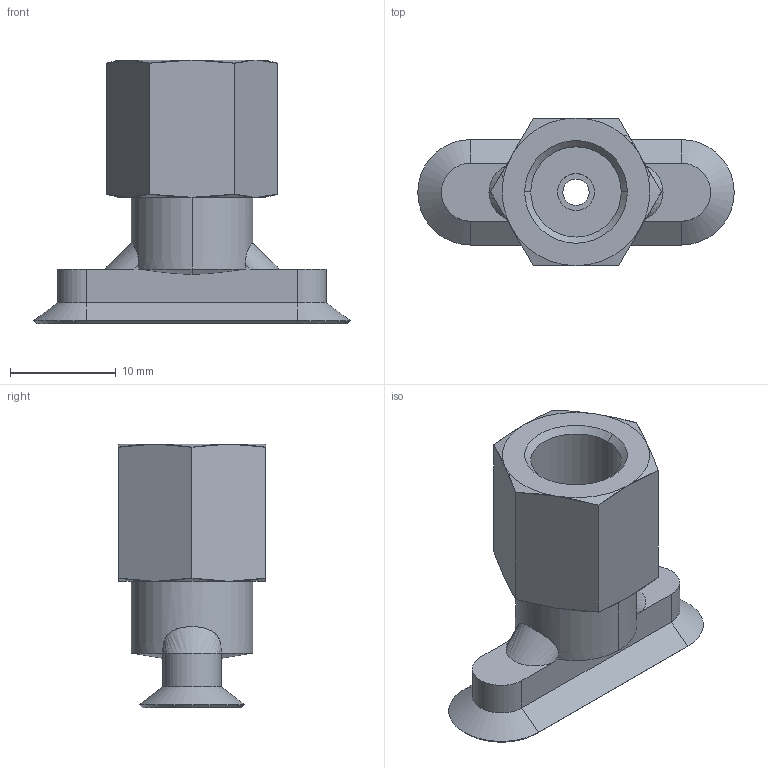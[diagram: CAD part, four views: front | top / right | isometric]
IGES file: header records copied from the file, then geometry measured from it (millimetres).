
Start section: 3D InterOp IGES (v. 2018 1.0.2), Spatial Corp. Copyright (c) 1999-2017.
Global section: file name: schmalz_10_01_05_00099_aoexplbzzqos98fem8wly7l19.igs; native system: Spatial Corp.; preprocessor: 3D InterOp ACIS/IGES; author: TraceParts; organization: TraceParts S.A.; date: 20181120.040257; units: millimetre
Bounding box: 30 x 14 x 25 mm (x, y, z)
Surface area: 2306.7 mm2 (no closed solid volume)
Topology: 0 solids, 0 shells, 65 faces, 292 edges, 292 vertices
Faces by surface type: revolution 41, extrusion 22, bspline 2
